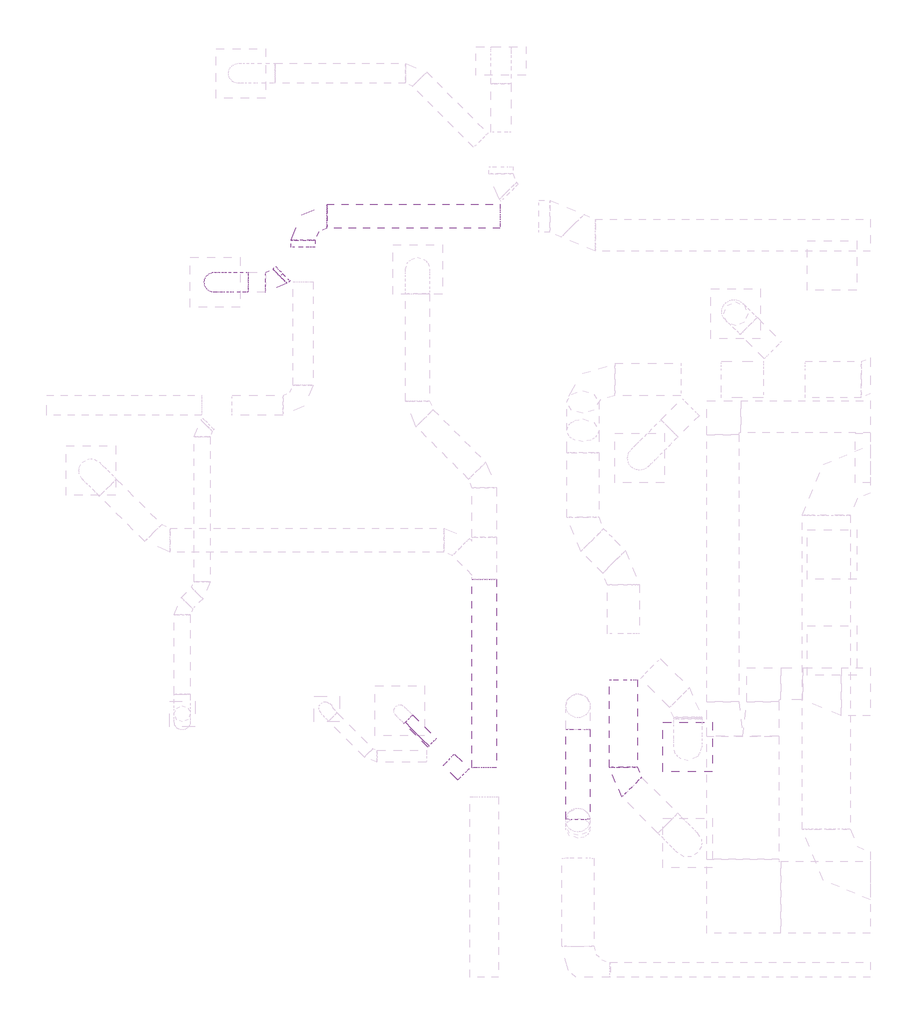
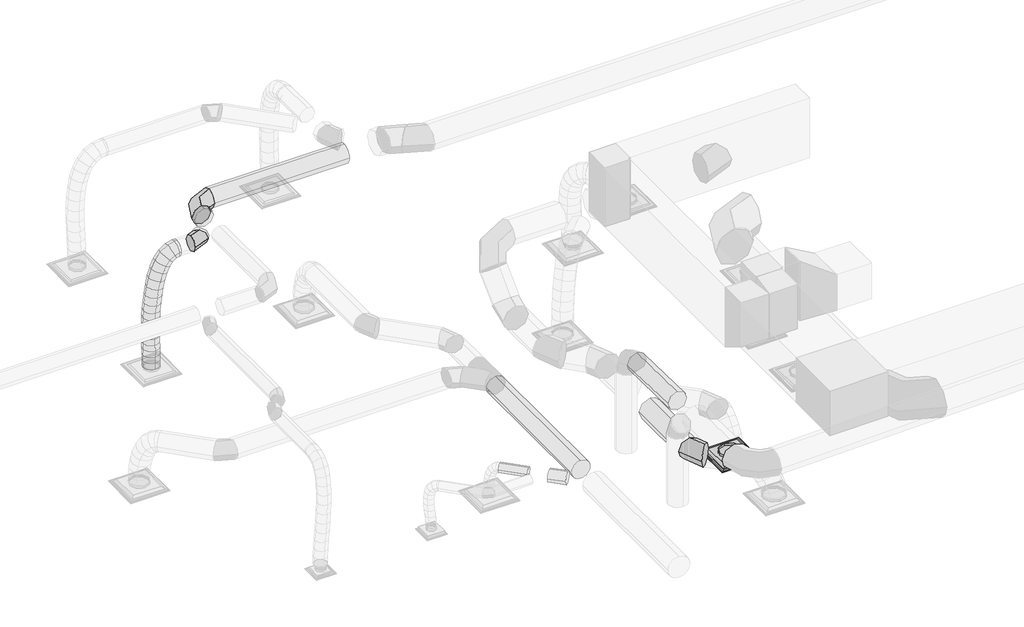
# One storey, part 14 of 33: 9 duct segments, 3 duct fittings, 1 air terminal.
"""IFC4 building model written with IfcOpenShell, lengths in millimetres."""

from ifc_helpers import new_model, si_unit, point, frame, frame_2d, origin, place, context, project, spatial, circle_curve, ellipse_curve, trimmed, segment, composite_curve, outline, extrude, transform, mapped, element, save
from ifc_brep_helpers import plane_surface, cylinder_surface, advanced_brep
from components import air_terminal_1ddfe03e, round_elbow_1_d_146a3901, round_elbow_1_d_ea3dccb8, round_elbow_1_d_281bc45b

model = new_model("IFC4")

# Units and contexts
model_context = context("Model", 3, world=origin())
ifc_project = project(units=[si_unit("LENGTHUNIT", "METRE", prefix="MILLI")], contexts=[model_context])

# Site, building, storey
site = spatial("IfcSite", under=ifc_project)
building = spatial("IfcBuilding", under=site)
storey = spatial("IfcBuildingStorey", under=building, Name="T.O. SLAB - 1ST", Elevation=-25.4)

# Air terminal
placement = place(None, origin())
air_terminal_shape = air_terminal_1ddfe03e(model_context)
element("IfcAirTerminal", 1, ObjectType="Titus-Round_Neck_Supply_Diffuser-PCS_Surface_Mount : PCS AA-14_24x24", at=placement, inside=storey, context=model_context, shape_type="MappedRepresentation", body=[
    mapped(air_terminal_shape, transform((11455.4, 24676.0034288, 2717.8), x_axis=(0.0, -1.0, 0.0), y_axis=(-1.0, 0.0, 0.0), z_axis=(0.0, 0.0, -1.0))),
])

# Duct fittings
round_elbow_1_d_shape = round_elbow_1_d_146a3901(model_context)
element("IfcDuctFitting", 2, ObjectType="Round Elbow : 1 D", at=placement, inside=storey, context=model_context, shape_type="MappedRepresentation", body=[
    mapped(round_elbow_1_d_shape, transform((10641.328611, 24270.8697879, 3276.6), x_axis=(0.0, -1.0, 0.0), y_axis=(1.0, 0.0, 0.0), z_axis=(0.0, 0.0, 1.0))),
])
round_elbow_1_d_2_shape = round_elbow_1_d_ea3dccb8(model_context)
element("IfcDuctFitting", 3, ObjectType="Round Elbow : 1 D", at=placement, inside=storey, context=model_context, shape_type="MappedRepresentation", body=[
    mapped(round_elbow_1_d_2_shape, transform((6212.5757183, 30561.4823623, 4648.2), x_axis=(1.0, 0.0, 0.0), y_axis=(0.0, 1.0, 0.0), z_axis=(0.0, 0.0, 1.0))),
])
round_elbow_1_d_3_shape = round_elbow_1_d_281bc45b(model_context)
element("IfcDuctFitting", 4, ObjectType="Round Elbow : 1 D", at=placement, inside=storey, context=model_context, shape_type="MappedRepresentation", body=[
    mapped(round_elbow_1_d_3_shape, transform((6578.2480791, 31395.3443818, 4648.2), x_axis=(-1.0, 0.0, 0.0), y_axis=(0.0, -1.0, 0.0), z_axis=(0.0, 0.0, 1.0))),
])

# Duct segments
element("IfcDuctSegment", 5, ObjectType="Flex - Round", at=placement, inside=storey, context=model_context, shape_type="AdvancedBrep", body=[
    advanced_brep(
    [(5882.3757183, 30434.4823623, 4648.2), (5882.3757183, 30561.4823623, 4521.2), (5882.3757183, 30688.4823623, 4648.2), (5882.3757183, 30561.4823623, 4775.2), (5857.4072984, 30434.4823623, 4648.2), (5874.1168867, 30561.4823623, 4521.2), (5857.4073064, 30688.4823623, 4648.2), (5840.6977182, 30561.4823623, 4775.2), (5465.447759, 30434.4824969, 2787.6500014), (5338.4516744, 30561.4825211, 2786.6558394), (5465.4478074, 30688.4824969, 2787.6499986), (5592.443892, 30561.4824728, 2788.6441606), (5782.975518, 30434.4823671, 4628.2687626), (5836.6178435, 30561.4823647, 4511.158559), (5782.9755431, 30688.4823671, 4628.2687672), (5729.3332177, 30561.4823694, 4745.3789709), (5701.6029603, 30434.4823799, 4572.9069649), (5789.6028965, 30561.4823721, 4479.1719525), (5701.6030005, 30688.4823799, 4572.9069797), (5613.6030643, 30561.4823877, 4666.6419922), (5636.2292394, 30434.4823987, 4488.7624785), (5744.730621, 30561.482385, 4421.4154943), (5636.2292876, 30688.4823987, 4488.7625036), (5527.7279061, 30561.4824123, 4556.1094879), (5584.8255501, 30434.4824211, 4382.4831744), (5702.9513467, 30561.4824033, 4335.035076), (5584.8256012, 30688.4824211, 4382.4832057), (5466.6998045, 30561.482439, 4429.9313041), (5545.3630865, 30434.4824451, 4260.7169213), (5667.9576012, 30561.4824245, 4227.0575985), (5545.3631383, 30688.4824451, 4260.7169548), (5422.7686236, 30561.4824657, 4294.3762776), (5515.8130438, 30434.4824685, 4130.1115878), (5640.534086, 30561.4824462, 4105.8510949), (5515.8130954, 30688.4824685, 4130.1116201), (5391.0920532, 30561.4824907, 4154.372113), (5494.1466174, 30434.482489, 3997.3150429), (5619.8943812, 30561.4824658, 3979.3474698), (5494.1466682, 30688.482489, 3997.3150706), (5368.3989044, 30561.4825122, 4015.2826437), (5478.3707749, 30434.4825046, 3868.7753504), (5604.6608289, 30561.4824808, 3855.2262937), (5478.3708249, 30688.4825046, 3868.775371), (5352.0807708, 30561.4825284, 3882.3244277), (5467.18667, 30434.4825147, 3747.0632106), (5593.82253, 30561.4824906, 3737.277422), (5467.1867192, 30688.4825147, 3747.0632233), (5340.5508592, 30561.4825388, 3756.8490119), (5459.9249375, 30434.4825201, 3631.2333681), (5586.7822988, 30561.4824959, 3624.9806829), (5459.9249863, 30688.4825201, 3631.2333734), (5333.0676251, 30561.4825444, 3637.4860585), (5455.9390048, 30434.4825217, 3520.2132616), (5582.9102119, 30561.4824974, 3517.1315247), (5455.9390533, 30688.4825217, 3520.2132605), (5328.9678462, 30561.482546, 3523.2949973), (5454.582299, 30434.4825202, 3412.9303301), (5581.5871278, 30561.482496, 3412.5072542), (5454.5823475, 30688.4825202, 3412.9303239), (5327.5775188, 30561.4825445, 3413.3533998), (5455.2082476, 30434.4825167, 3308.3120125), (5582.2010373, 30561.4824925, 3309.901073), (5455.2082961, 30688.4825167, 3308.3120029), (5328.2155063, 30561.4825409, 3306.7229424), (5457.1702776, 30434.4825119, 3205.2857479), (5584.1390331, 30561.4824877, 3208.1368518), (5457.1703262, 30688.4825119, 3205.2857365), (5330.2015707, 30561.482536, 3202.4346326), (5459.8218166, 30434.4825066, 3102.7789755), (5586.7793743, 30561.4824825, 3106.0629755), (5459.8218651, 30688.4825066, 3102.7789637), (5332.8643074, 30561.4825307, 3099.4949637), (5462.5162916, 30434.4825018, 2999.7191335), (5589.4831709, 30561.4824777, 3002.6467877), (5462.5163401, 30688.4825018, 2999.7191244), (5335.5494609, 30561.4825259, 2996.7914702), (5464.6071301, 30434.4824983, 2895.033662), (5591.5972275, 30561.4824741, 2896.7988104), (5464.6071785, 30688.4824983, 2895.0336568), (5337.617081, 30561.4825225, 2893.2685084)],
    [
        (0, 1, circle_curve(frame((5882.3757183, 30561.4823623, 4648.2), z_axis=(1.0, 0.0, 0.0), x_axis=(0.0, -1.0, 0.0)), 127.0)),
        (1, 2, circle_curve(frame((5882.3757183, 30561.4823623, 4648.2), z_axis=(1.0, 0.0, 0.0), x_axis=(0.0, -1.0, 0.0)), 127.0)),
        (2, 3, circle_curve(frame((5882.3757183, 30561.4823623, 4648.2), z_axis=(1.0, 0.0, 0.0), x_axis=(0.0, -1.0, 0.0)), 127.0)),
        (3, 0, circle_curve(frame((5882.3757183, 30561.4823623, 4648.2), z_axis=(1.0, 0.0, 0.0), x_axis=(0.0, -1.0, 0.0)), 127.0)),
        (0, 4),
        (4, 5, ellipse_curve(frame((5857.4073024, 30561.4823623, 4648.2), z_axis=(0.9914552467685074, -3.11921936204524e-08, 0.13044728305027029), x_axis=(0.1304472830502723, 2.3707403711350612e-07, -0.9914552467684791)), 128.0945362, 127.0)),
        (5, 1),
        (5, 6, ellipse_curve(frame((5857.4073024, 30561.4823623, 4648.2), z_axis=(0.9914552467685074, -3.11921936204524e-08, 0.13044728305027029), x_axis=(0.1304472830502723, 2.3707403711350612e-07, -0.9914552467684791)), 128.0945362, 127.0)),
        (6, 2),
        (6, 7, ellipse_curve(frame((5857.4073024, 30561.4823623, 4648.2), z_axis=(0.9914552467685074, -3.11921936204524e-08, 0.13044728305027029), x_axis=(0.1304472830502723, 2.3707403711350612e-07, -0.9914552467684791)), 128.0945362, 127.0)),
        (7, 3),
        (7, 4, ellipse_curve(frame((5857.4073024, 30561.4823623, 4648.2), z_axis=(0.9914552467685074, -3.11921936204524e-08, 0.13044728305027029), x_axis=(0.1304472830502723, 2.3707403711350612e-07, -0.9914552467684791)), 128.0945362, 127.0)),
        (8, 9, circle_curve(frame((5465.4477832, 30561.4824969, 2787.65), z_axis=(0.00782803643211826, -1.26703590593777e-08, -0.9999693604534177), x_axis=(-1.904807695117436e-07, -0.9999999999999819, 1.117961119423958e-08)), 127.0)),
        (9, 10, circle_curve(frame((5465.4477832, 30561.4824969, 2787.65), z_axis=(0.00782803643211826, -1.26703590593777e-08, -0.9999693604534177), x_axis=(-1.904807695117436e-07, -0.9999999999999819, 1.117961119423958e-08)), 127.0)),
        (10, 11, circle_curve(frame((5465.4477832, 30561.4824969, 2787.65), z_axis=(0.00782803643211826, -1.26703590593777e-08, -0.9999693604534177), x_axis=(-1.904807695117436e-07, -0.9999999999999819, 1.117961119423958e-08)), 127.0)),
        (11, 8, circle_curve(frame((5465.4477832, 30561.4824969, 2787.65), z_axis=(0.00782803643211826, -1.26703590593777e-08, -0.9999693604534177), x_axis=(-1.904807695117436e-07, -0.9999999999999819, 1.117961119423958e-08)), 127.0)),
        (4, 12),
        (12, 13, ellipse_curve(frame((5782.9755306, 30561.4823671, 4628.2687649), z_axis=(0.9091624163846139, -9.754882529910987e-08, 0.41644171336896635), x_axis=(0.4164417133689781, 2.0542137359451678e-07, -0.9091624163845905)), 128.8110945, 127.0)),
        (13, 5),
        (13, 14, ellipse_curve(frame((5782.9755306, 30561.4823671, 4628.2687649), z_axis=(0.9091624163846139, -9.754882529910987e-08, 0.41644171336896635), x_axis=(0.4164417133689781, 2.0542137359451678e-07, -0.9091624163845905)), 128.8110945, 127.0)),
        (14, 6),
        (14, 15, ellipse_curve(frame((5782.9755306, 30561.4823671, 4628.2687649), z_axis=(0.9091624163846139, -9.754882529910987e-08, 0.41644171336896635), x_axis=(0.4164417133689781, 2.0542137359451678e-07, -0.9091624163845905)), 128.8110945, 127.0)),
        (15, 7),
        (15, 12, ellipse_curve(frame((5782.9755306, 30561.4823671, 4628.2687649), z_axis=(0.9091624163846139, -9.754882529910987e-08, 0.41644171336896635), x_axis=(0.4164417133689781, 2.0542137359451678e-07, -0.9091624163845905)), 128.8110945, 127.0)),
        (12, 16),
        (16, 17, ellipse_curve(frame((5701.6029804, 30561.4823799, 4572.9069723), z_axis=(0.7290583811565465, -1.550893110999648e-07, 0.6844515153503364), x_axis=(0.6844515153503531, 1.456517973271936e-07, -0.7290583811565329)), 128.5699777, 127.0)),
        (17, 13),
        (17, 18, ellipse_curve(frame((5701.6029804, 30561.4823799, 4572.9069723), z_axis=(0.7290583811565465, -1.550893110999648e-07, 0.6844515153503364), x_axis=(0.6844515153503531, 1.456517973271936e-07, -0.7290583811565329)), 128.5699777, 127.0)),
        (18, 14),
        (18, 19, ellipse_curve(frame((5701.6029804, 30561.4823799, 4572.9069723), z_axis=(0.7290583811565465, -1.550893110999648e-07, 0.6844515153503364), x_axis=(0.6844515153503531, 1.456517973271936e-07, -0.7290583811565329)), 128.5699777, 127.0)),
        (19, 15),
        (19, 16, ellipse_curve(frame((5701.6029804, 30561.4823799, 4572.9069723), z_axis=(0.7290583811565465, -1.550893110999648e-07, 0.6844515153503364), x_axis=(0.6844515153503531, 1.456517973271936e-07, -0.7290583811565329)), 128.5699777, 127.0)),
        (16, 20),
        (20, 21, ellipse_curve(frame((5636.2292635, 30561.4823987, 4488.7624911), z_axis=(0.5273703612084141, -1.8407641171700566e-07, 0.8496355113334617), x_axis=(0.8496355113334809, 6.845152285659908e-08, -0.5273703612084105)), 127.7034163, 127.0)),
        (21, 17),
        (21, 22, ellipse_curve(frame((5636.2292635, 30561.4823987, 4488.7624911), z_axis=(0.5273703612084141, -1.8407641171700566e-07, 0.8496355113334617), x_axis=(0.8496355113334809, 6.845152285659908e-08, -0.5273703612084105)), 127.7034163, 127.0)),
        (22, 18),
        (22, 23, ellipse_curve(frame((5636.2292635, 30561.4823987, 4488.7624911), z_axis=(0.5273703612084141, -1.8407641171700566e-07, 0.8496355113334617), x_axis=(0.8496355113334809, 6.845152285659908e-08, -0.5273703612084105)), 127.7034163, 127.0)),
        (23, 19),
        (23, 20, ellipse_curve(frame((5636.2292635, 30561.4823987, 4488.7624911), z_axis=(0.5273703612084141, -1.8407641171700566e-07, 0.8496355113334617), x_axis=(0.8496355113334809, 6.845152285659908e-08, -0.5273703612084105)), 127.7034163, 127.0)),
        (20, 24),
        (24, 25, ellipse_curve(frame((5584.8255756, 30561.4824211, 4382.48319), z_axis=(0.37272983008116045, -1.8929553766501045e-07, 0.927939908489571), x_axis=(0.9279399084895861, -2.0238526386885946e-08, -0.37272983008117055)), 127.2989447, 127.0)),
        (25, 21),
        (25, 26, ellipse_curve(frame((5584.8255756, 30561.4824211, 4382.48319), z_axis=(0.37272983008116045, -1.8929553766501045e-07, 0.927939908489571), x_axis=(0.9279399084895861, -2.0238526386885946e-08, -0.37272983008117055)), 127.2989447, 127.0)),
        (26, 22),
        (26, 27, ellipse_curve(frame((5584.8255756, 30561.4824211, 4382.48319), z_axis=(0.37272983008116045, -1.8929553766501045e-07, 0.927939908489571), x_axis=(0.9279399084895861, -2.0238526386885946e-08, -0.37272983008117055)), 127.2989447, 127.0)),
        (27, 23),
        (27, 24, ellipse_curve(frame((5584.8255756, 30561.4824211, 4382.48319), z_axis=(0.37272983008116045, -1.8929553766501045e-07, 0.927939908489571), x_axis=(0.9279399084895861, -2.0238526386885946e-08, -0.37272983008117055)), 127.2989447, 127.0)),
        (24, 28),
        (28, 29, ellipse_curve(frame((5545.3631124, 30561.4824451, 4260.716938), z_axis=(0.2647605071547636, -1.8111451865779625e-07, 0.9643141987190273), x_axis=(0.964314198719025, -1.438929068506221e-07, -0.26476050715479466)), 127.1312701, 127.0)),
        (29, 25),
        (29, 30, ellipse_curve(frame((5545.3631124, 30561.4824451, 4260.716938), z_axis=(0.2647605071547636, -1.8111451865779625e-07, 0.9643141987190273), x_axis=(0.964314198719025, -1.438929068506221e-07, -0.26476050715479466)), 127.1312701, 127.0)),
        (30, 26),
        (30, 31, ellipse_curve(frame((5545.3631124, 30561.4824451, 4260.716938), z_axis=(0.2647605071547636, -1.8111451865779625e-07, 0.9643141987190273), x_axis=(0.964314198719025, -1.438929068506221e-07, -0.26476050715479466)), 127.1312701, 127.0)),
        (31, 27),
        (31, 28, ellipse_curve(frame((5545.3631124, 30561.4824451, 4260.716938), z_axis=(0.2647605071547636, -1.8111451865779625e-07, 0.9643141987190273), x_axis=(0.964314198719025, -1.438929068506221e-07, -0.26476050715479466)), 127.1312701, 127.0)),
        (28, 32),
        (32, 33, ellipse_curve(frame((5515.8130696, 30561.4824685, 4130.111604), z_axis=(0.19093943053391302, -1.6355233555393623e-07, 0.9816018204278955), x_axis=(0.9816018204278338, -3.591772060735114e-07, -0.19093943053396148)), 127.0586645, 127.0)),
        (33, 29),
        (33, 34, ellipse_curve(frame((5515.8130696, 30561.4824685, 4130.111604), z_axis=(0.19093943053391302, -1.6355233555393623e-07, 0.9816018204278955), x_axis=(0.9816018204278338, -3.591772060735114e-07, -0.19093943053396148)), 127.0586645, 127.0)),
        (34, 30),
        (34, 35, ellipse_curve(frame((5515.8130696, 30561.4824685, 4130.111604), z_axis=(0.19093943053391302, -1.6355233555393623e-07, 0.9816018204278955), x_axis=(0.9816018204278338, -3.591772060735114e-07, -0.19093943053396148)), 127.0586645, 127.0)),
        (35, 31),
        (35, 32, ellipse_curve(frame((5515.8130696, 30561.4824685, 4130.111604), z_axis=(0.19093943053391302, -1.6355233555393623e-07, 0.9816018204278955), x_axis=(0.9816018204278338, -3.591772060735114e-07, -0.19093943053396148)), 127.0586645, 127.0)),
        (32, 36),
        (36, 37, ellipse_curve(frame((5494.1466428, 30561.482489, 3997.3150568), z_axis=(0.14144931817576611, -1.365447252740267e-07, 0.9899454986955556), x_axis=(0.9899454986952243, -8.102378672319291e-07, -0.14144931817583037)), 127.0249105, 127.0)),
        (37, 33),
        (37, 38, ellipse_curve(frame((5494.1466428, 30561.482489, 3997.3150568), z_axis=(0.14144931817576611, -1.365447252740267e-07, 0.9899454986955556), x_axis=(0.9899454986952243, -8.102378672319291e-07, -0.14144931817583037)), 127.0249105, 127.0)),
        (38, 34),
        (38, 39, ellipse_curve(frame((5494.1466428, 30561.482489, 3997.3150568), z_axis=(0.14144931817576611, -1.365447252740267e-07, 0.9899454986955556), x_axis=(0.9899454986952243, -8.102378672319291e-07, -0.14144931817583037)), 127.0249105, 127.0)),
        (39, 35),
        (39, 36, ellipse_curve(frame((5494.1466428, 30561.482489, 3997.3150568), z_axis=(0.14144931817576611, -1.365447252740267e-07, 0.9899454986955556), x_axis=(0.9899454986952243, -8.102378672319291e-07, -0.14144931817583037)), 127.0249105, 127.0)),
        (36, 40),
        (40, 41, ellipse_curve(frame((5478.3707999, 30561.4825046, 3868.7753607), z_axis=(0.10667317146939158, -1.015598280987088e-07, 0.9942941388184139), x_axis=(0.9942941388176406, -1.241478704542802e-06, -0.10667317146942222)), 127.0147576, 127.0)),
        (41, 37),
        (41, 42, ellipse_curve(frame((5478.3707999, 30561.4825046, 3868.7753607), z_axis=(0.10667317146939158, -1.015598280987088e-07, 0.9942941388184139), x_axis=(0.9942941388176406, -1.241478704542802e-06, -0.10667317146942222)), 127.0147576, 127.0)),
        (42, 38),
        (42, 43, ellipse_curve(frame((5478.3707999, 30561.4825046, 3868.7753607), z_axis=(0.10667317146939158, -1.015598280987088e-07, 0.9942941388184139), x_axis=(0.9942941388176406, -1.241478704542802e-06, -0.10667317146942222)), 127.0147576, 127.0)),
        (43, 39),
        (43, 40, ellipse_curve(frame((5478.3707999, 30561.4825046, 3868.7753607), z_axis=(0.10667317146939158, -1.015598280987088e-07, 0.9942941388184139), x_axis=(0.9942941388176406, -1.241478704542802e-06, -0.10667317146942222)), 127.0147576, 127.0)),
        (40, 44),
        (44, 45, ellipse_curve(frame((5467.1866946, 30561.4825147, 3747.063217), z_axis=(0.07704539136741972, -6.458959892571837e-08, 0.9970275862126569), x_axis=(0.9970275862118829, -1.243323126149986e-06, -0.07704539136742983)), 127.0133717, 127.0)),
        (45, 41),
        (45, 46, ellipse_curve(frame((5467.1866946, 30561.4825147, 3747.063217), z_axis=(0.07704539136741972, -6.458959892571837e-08, 0.9970275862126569), x_axis=(0.9970275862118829, -1.243323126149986e-06, -0.07704539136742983)), 127.0133717, 127.0)),
        (46, 42),
        (46, 47, ellipse_curve(frame((5467.1866946, 30561.4825147, 3747.063217), z_axis=(0.07704539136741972, -6.458959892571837e-08, 0.9970275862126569), x_axis=(0.9970275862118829, -1.243323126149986e-06, -0.07704539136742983)), 127.0133717, 127.0)),
        (47, 43),
        (47, 44, ellipse_curve(frame((5467.1866946, 30561.4825147, 3747.063217), z_axis=(0.07704539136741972, -6.458959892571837e-08, 0.9970275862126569), x_axis=(0.9970275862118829, -1.243323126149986e-06, -0.07704539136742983)), 127.0133717, 127.0)),
        (44, 48),
        (48, 49, ellipse_curve(frame((5459.9249619, 30561.4825201, 3631.2333707), z_axis=(0.04922936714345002, -3.0296648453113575e-08, 0.9987874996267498), x_axis=(0.9987874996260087, -1.216035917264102e-06, -0.04922936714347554)), 127.0113381, 127.0)),
        (49, 45),
        (49, 50, ellipse_curve(frame((5459.9249619, 30561.4825201, 3631.2333707), z_axis=(0.04922936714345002, -3.0296648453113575e-08, 0.9987874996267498), x_axis=(0.9987874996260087, -1.216035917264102e-06, -0.04922936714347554)), 127.0113381, 127.0)),
        (50, 46),
        (50, 51, ellipse_curve(frame((5459.9249619, 30561.4825201, 3631.2333707), z_axis=(0.04922936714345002, -3.0296648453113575e-08, 0.9987874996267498), x_axis=(0.9987874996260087, -1.216035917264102e-06, -0.04922936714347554)), 127.0113381, 127.0)),
        (51, 47),
        (51, 48, ellipse_curve(frame((5459.9249619, 30561.4825201, 3631.2333707), z_axis=(0.04922936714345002, -3.0296648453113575e-08, 0.9987874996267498), x_axis=(0.9987874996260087, -1.216035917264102e-06, -0.04922936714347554)), 127.0113381, 127.0)),
        (48, 52),
        (52, 53, ellipse_curve(frame((5455.9390291, 30561.4825217, 3520.213261), z_axis=(0.02426400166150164, -3.8306851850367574e-10, 0.9997055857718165), x_axis=(0.9997055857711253, -1.1757295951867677e-06, -0.024264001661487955)), 127.008576, 127.0)),
        (53, 49),
        (53, 54, ellipse_curve(frame((5455.9390291, 30561.4825217, 3520.213261), z_axis=(0.02426400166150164, -3.8306851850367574e-10, 0.9997055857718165), x_axis=(0.9997055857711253, -1.1757295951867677e-06, -0.024264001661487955)), 127.008576, 127.0)),
        (54, 50),
        (54, 55, ellipse_curve(frame((5455.9390291, 30561.4825217, 3520.213261), z_axis=(0.02426400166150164, -3.8306851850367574e-10, 0.9997055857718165), x_axis=(0.9997055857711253, -1.1757295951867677e-06, -0.024264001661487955)), 127.008576, 127.0)),
        (55, 51),
        (55, 52, ellipse_curve(frame((5455.9390291, 30561.4825217, 3520.213261), z_axis=(0.02426400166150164, -3.8306851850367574e-10, 0.9997055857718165), x_axis=(0.9997055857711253, -1.1757295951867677e-06, -0.024264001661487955)), 127.008576, 127.0)),
        (52, 56),
        (56, 57, ellipse_curve(frame((5454.5823233, 30561.4825202, 3412.930327), z_axis=(0.0033311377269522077, 2.3626302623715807e-08, 0.9999944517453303), x_axis=(0.9999944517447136, -1.1107320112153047e-06, -0.003331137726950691)), 127.0055091, 127.0)),
        (57, 53),
        (57, 58, ellipse_curve(frame((5454.5823233, 30561.4825202, 3412.930327), z_axis=(0.0033311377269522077, 2.3626302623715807e-08, 0.9999944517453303), x_axis=(0.9999944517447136, -1.1107320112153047e-06, -0.003331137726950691)), 127.0055091, 127.0)),
        (58, 54),
        (58, 59, ellipse_curve(frame((5454.5823233, 30561.4825202, 3412.930327), z_axis=(0.0033311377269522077, 2.3626302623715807e-08, 0.9999944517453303), x_axis=(0.9999944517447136, -1.1107320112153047e-06, -0.003331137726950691)), 127.0055091, 127.0)),
        (59, 55),
        (59, 56, ellipse_curve(frame((5454.5823233, 30561.4825202, 3412.930327), z_axis=(0.0033311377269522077, 2.3626302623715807e-08, 0.9999944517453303), x_axis=(0.9999944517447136, -1.1107320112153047e-06, -0.003331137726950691)), 127.0055091, 127.0)),
        (56, 60),
        (60, 61, ellipse_curve(frame((5455.2082718, 30561.4825167, 3308.3120077), z_axis=(-0.012512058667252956, 4.0409469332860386e-08, 0.9999217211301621), x_axis=(0.9999217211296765, -9.86003442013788e-07, 0.012512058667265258)), 127.0027072, 127.0)),
        (61, 57),
        (61, 62, ellipse_curve(frame((5455.2082718, 30561.4825167, 3308.3120077), z_axis=(-0.012512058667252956, 4.0409469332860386e-08, 0.9999217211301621), x_axis=(0.9999217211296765, -9.86003442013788e-07, 0.012512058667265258)), 127.0027072, 127.0)),
        (62, 58),
        (62, 63, ellipse_curve(frame((5455.2082718, 30561.4825167, 3308.3120077), z_axis=(-0.012512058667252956, 4.0409469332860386e-08, 0.9999217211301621), x_axis=(0.9999217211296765, -9.86003442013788e-07, 0.012512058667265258)), 127.0027072, 127.0)),
        (63, 59),
        (63, 60, ellipse_curve(frame((5455.2082718, 30561.4825167, 3308.3120077), z_axis=(-0.012512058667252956, 4.0409469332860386e-08, 0.9999217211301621), x_axis=(0.9999217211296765, -9.86003442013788e-07, 0.012512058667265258)), 127.0027072, 127.0)),
        (60, 64),
        (64, 65, ellipse_curve(frame((5457.1703019, 30561.4825119, 3205.2857422), z_axis=(-0.02244955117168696, 4.899657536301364e-08, 0.9997479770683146), x_axis=(0.999747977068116, -6.304923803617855e-07, 0.022449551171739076)), 127.0007383, 127.0)),
        (65, 61),
        (65, 66, ellipse_curve(frame((5457.1703019, 30561.4825119, 3205.2857422), z_axis=(-0.02244955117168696, 4.899657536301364e-08, 0.9997479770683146), x_axis=(0.999747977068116, -6.304923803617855e-07, 0.022449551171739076)), 127.0007383, 127.0)),
        (66, 62),
        (66, 67, ellipse_curve(frame((5457.1703019, 30561.4825119, 3205.2857422), z_axis=(-0.02244955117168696, 4.899657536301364e-08, 0.9997479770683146), x_axis=(0.999747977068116, -6.304923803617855e-07, 0.022449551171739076)), 127.0007383, 127.0)),
        (67, 63),
        (67, 64, ellipse_curve(frame((5457.1703019, 30561.4825119, 3205.2857422), z_axis=(-0.02244955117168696, 4.899657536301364e-08, 0.9997479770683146), x_axis=(0.999747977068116, -6.304923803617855e-07, 0.022449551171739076)), 127.0007383, 127.0)),
        (64, 68),
        (68, 69, circle_curve(frame((5459.8218409, 30561.4825066, 3102.7789696), z_axis=(-0.02585831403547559, 5.114611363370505e-08, 0.9996656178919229), x_axis=(-1.9113232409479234e-07, -0.9999999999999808, 4.621920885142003e-08)), 127.0)),
        (69, 65),
        (69, 70, circle_curve(frame((5459.8218409, 30561.4825066, 3102.7789696), z_axis=(-0.02585831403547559, 5.114611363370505e-08, 0.9996656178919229), x_axis=(-1.9113232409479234e-07, -0.9999999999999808, 4.621920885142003e-08)), 127.0)),
        (70, 66),
        (70, 71, circle_curve(frame((5459.8218409, 30561.4825066, 3102.7789696), z_axis=(-0.02585831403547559, 5.114611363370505e-08, 0.9996656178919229), x_axis=(-1.9113232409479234e-07, -0.9999999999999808, 4.621920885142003e-08)), 127.0)),
        (71, 67),
        (71, 68, circle_curve(frame((5459.8218409, 30561.4825066, 3102.7789696), z_axis=(-0.02585831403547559, 5.114611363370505e-08, 0.9996656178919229), x_axis=(-1.9113232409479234e-07, -0.9999999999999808, 4.621920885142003e-08)), 127.0)),
        (68, 72),
        (72, 73, ellipse_curve(frame((5462.5163159, 30561.4825018, 2999.719129), z_axis=(-0.023052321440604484, 4.007534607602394e-08, 0.9997342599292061), x_axis=(-0.9997342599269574, 2.120628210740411e-06, -0.02305232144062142)), 127.0006041, 127.0)),
        (73, 69),
        (73, 74, ellipse_curve(frame((5462.5163159, 30561.4825018, 2999.719129), z_axis=(-0.023052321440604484, 4.007534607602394e-08, 0.9997342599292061), x_axis=(-0.9997342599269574, 2.120628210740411e-06, -0.02305232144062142)), 127.0006041, 127.0)),
        (74, 70),
        (74, 75, ellipse_curve(frame((5462.5163159, 30561.4825018, 2999.719129), z_axis=(-0.023052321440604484, 4.007534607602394e-08, 0.9997342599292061), x_axis=(-0.9997342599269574, 2.120628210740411e-06, -0.02305232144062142)), 127.0006041, 127.0)),
        (75, 71),
        (75, 72, ellipse_curve(frame((5462.5163159, 30561.4825018, 2999.719129), z_axis=(-0.023052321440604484, 4.007534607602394e-08, 0.9997342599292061), x_axis=(-0.9997342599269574, 2.120628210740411e-06, -0.02305232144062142)), 127.0006041, 127.0)),
        (72, 76),
        (76, 77, ellipse_curve(frame((5464.6071543, 30561.4824983, 2895.0336594), z_axis=(-0.013898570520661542, 2.3102708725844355e-08, 0.9999034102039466), x_axis=(-0.9999034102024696, 1.7183589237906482e-06, -0.013898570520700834)), 127.0023404, 127.0)),
        (77, 73),
        (77, 78, ellipse_curve(frame((5464.6071543, 30561.4824983, 2895.0336594), z_axis=(-0.013898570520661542, 2.3102708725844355e-08, 0.9999034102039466), x_axis=(-0.9999034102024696, 1.7183589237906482e-06, -0.013898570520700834)), 127.0023404, 127.0)),
        (78, 74),
        (78, 79, ellipse_curve(frame((5464.6071543, 30561.4824983, 2895.0336594), z_axis=(-0.013898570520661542, 2.3102708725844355e-08, 0.9999034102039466), x_axis=(-0.9999034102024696, 1.7183589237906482e-06, -0.013898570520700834)), 127.0023404, 127.0)),
        (79, 75),
        (79, 76, ellipse_curve(frame((5464.6071543, 30561.4824983, 2895.0336594), z_axis=(-0.013898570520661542, 2.3102708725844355e-08, 0.9999034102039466), x_axis=(-0.9999034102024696, 1.7183589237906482e-06, -0.013898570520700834)), 127.0023404, 127.0)),
        (76, 8),
        (11, 77),
        (10, 78),
        (9, 79),
    ],
    [
        plane_surface(frame((5882.3757183, 30561.4823623, 4521.2), z_axis=(1.0, 0.0, 0.0), x_axis=(0.0, -1.0, 0.0))),
        cylinder_surface(frame((5882.3757183, 30561.4823623, 4648.2), z_axis=(1.0, 0.0, 0.0), x_axis=(0.0, -1.0, 0.0)), 127.0),
        plane_surface(frame((5465.4477832, 30688.4824969, 2787.6499984), z_axis=(0.007828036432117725, -1.2670359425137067e-08, -0.9999693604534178), x_axis=(0.9999693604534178, 9.91917659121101e-11, 0.007828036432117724))),
        cylinder_surface(frame((5857.4073024, 30561.4823623, 4648.2), z_axis=(0.9659670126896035, -6.185132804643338e-08, 0.25866528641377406), x_axis=(-6.185132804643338e-08, -0.9999999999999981, -8.137873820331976e-09)), 127.0),
        cylinder_surface(frame((5782.9755306, 30561.4823671, 4628.2687649), z_axis=(0.8267920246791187, -1.3050323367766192e-07, 0.5625077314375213), x_axis=(-1.3081488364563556e-07, -0.9999999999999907, -3.972662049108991e-08)), 127.0),
        cylinder_surface(frame((5701.6029804, 30561.4823799, 4572.9069723), z_axis=(0.6135195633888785, -1.758877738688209e-07, 0.7896795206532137), x_axis=(-1.7824257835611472e-07, -0.9999999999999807, -8.425248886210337e-08)), 127.0),
        cylinder_surface(frame((5636.2292635, 30561.4823987, 4488.7624911), z_axis=(0.4354114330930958, -1.9023718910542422e-07, 0.9002315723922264), x_axis=(-1.9774753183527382e-07, -0.9999999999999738, -1.1567651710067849e-07)), 127.0),
        cylinder_surface(frame((5584.8255756, 30561.4824211, 4382.48319), z_axis=(0.30829761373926, -1.8746481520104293e-07, 0.9512899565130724), x_axis=(-2.0389628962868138e-07, -0.9999999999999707, -1.3098432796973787e-07)), 127.0),
        cylinder_surface(frame((5545.3631124, 30561.4824451, 4260.716938), z_axis=(0.22067664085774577, -1.7439020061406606e-07, 0.9753470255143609), x_axis=(-2.0433091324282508e-07, -0.9999999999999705, -1.3256731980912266e-07)), 127.0),
        cylinder_surface(frame((5515.8130696, 30561.4824685, 4130.111604), z_axis=(0.16102590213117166, -1.525634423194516e-07, 0.9869501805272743), x_axis=(-2.0219589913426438e-07, -0.9999999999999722, -1.215914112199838e-07)), 127.0),
        cylinder_surface(frame((5494.1466428, 30561.482489, 3997.3150568), z_axis=(0.12181725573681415, -1.2047245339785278e-07, 0.9925525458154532), x_axis=(-1.9868099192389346e-07, -0.9999999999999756, -9.69920238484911e-08)), 127.0),
        cylinder_surface(frame((5478.3707999, 30561.4825046, 3868.7753607), z_axis=(0.09150429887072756, -8.262360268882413e-08, 0.9958046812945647), x_axis=(-1.952519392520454e-07, -0.9999999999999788, -6.503003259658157e-08)), 127.0),
        cylinder_surface(frame((5467.1866946, 30561.4825147, 3747.063217), z_axis=(0.06257026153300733, -4.654199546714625e-08, 0.9980405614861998), x_axis=(-1.928958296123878e-07, -0.9999999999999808, -3.4540132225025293e-08)), 127.0),
        cylinder_surface(frame((5459.9249619, 30561.4825201, 3631.2333707), z_axis=(0.035879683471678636, -1.4045892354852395e-08, 0.9993561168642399), x_axis=(-1.9154716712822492e-07, -0.9999999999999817, -7.177862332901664e-09)), 127.0),
        cylinder_surface(frame((5455.9390291, 30561.4825217, 3520.213261), z_axis=(0.012645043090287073, 1.3279807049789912e-08, 0.9999200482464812), x_axis=(-1.9099198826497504e-07, -0.9999999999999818, 1.5696163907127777e-08)), 127.0),
        cylinder_surface(frame((5454.5823233, 30561.4825202, 3412.930327), z_axis=(-0.005983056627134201, 3.397074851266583e-08, 0.999982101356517), x_axis=(-1.9093491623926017e-07, -0.9999999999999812, 3.282896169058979e-08)), 127.0),
        cylinder_surface(frame((5455.2082718, 30561.4825167, 3308.3120077), z_axis=(-0.019040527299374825, 4.68464674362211e-08, 0.9998187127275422), x_axis=(-1.9106489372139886e-07, -0.9999999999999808, 4.3216325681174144e-08)), 127.0),
        cylinder_surface(frame((5457.1703019, 30561.4825119, 3205.2857422), z_axis=(-0.0258583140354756, 5.1146113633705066e-08, 0.9996656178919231), x_axis=(-1.9113232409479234e-07, -0.9999999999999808, 4.621920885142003e-08)), 127.0),
        cylinder_surface(frame((5459.8218409, 30561.4825066, 3102.7789696), z_axis=(-0.026135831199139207, 4.6616103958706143e-08, 0.9996584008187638), x_axis=(-1.9101318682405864e-07, -0.999999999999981, 4.1638039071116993e-08)), 127.0),
        cylinder_surface(frame((5462.5163159, 30561.4825018, 2999.719129), z_axis=(-0.01996859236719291, 3.353420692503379e-08, 0.9998006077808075), x_axis=(-1.9073863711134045e-07, -0.9999999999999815, 2.9731353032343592e-08)), 127.0),
        cylinder_surface(frame((5464.6071543, 30561.4824983, 2895.0336594), z_axis=(-0.007828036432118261, 1.2670359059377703e-08, 0.9999693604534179), x_axis=(-1.904807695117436e-07, -0.9999999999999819, 1.117961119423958e-08)), 127.0),
    ],
    [
        (0, [[1, 2, 3, 4]]),
        (1, [[-1, 5, 6, 7]]),
        (1, [[-2, -7, 8, 9]]),
        (1, [[-3, -9, 10, 11]]),
        (1, [[-4, -11, 12, -5]]),
        (2, [[13, 14, 15, 16]]),
        (3, [[-6, 17, 18, 19]]),
        (3, [[-8, -19, 20, 21]]),
        (3, [[-10, -21, 22, 23]]),
        (3, [[-12, -23, 24, -17]]),
        (4, [[-18, 25, 26, 27]]),
        (4, [[-20, -27, 28, 29]]),
        (4, [[-22, -29, 30, 31]]),
        (4, [[-24, -31, 32, -25]]),
        (5, [[-26, 33, 34, 35]]),
        (5, [[-28, -35, 36, 37]]),
        (5, [[-30, -37, 38, 39]]),
        (5, [[-32, -39, 40, -33]]),
        (6, [[-34, 41, 42, 43]]),
        (6, [[-36, -43, 44, 45]]),
        (6, [[-38, -45, 46, 47]]),
        (6, [[-40, -47, 48, -41]]),
        (7, [[-42, 49, 50, 51]]),
        (7, [[-44, -51, 52, 53]]),
        (7, [[-46, -53, 54, 55]]),
        (7, [[-48, -55, 56, -49]]),
        (8, [[-50, 57, 58, 59]]),
        (8, [[-52, -59, 60, 61]]),
        (8, [[-54, -61, 62, 63]]),
        (8, [[-56, -63, 64, -57]]),
        (9, [[-58, 65, 66, 67]]),
        (9, [[-60, -67, 68, 69]]),
        (9, [[-62, -69, 70, 71]]),
        (9, [[-64, -71, 72, -65]]),
        (10, [[-66, 73, 74, 75]]),
        (10, [[-68, -75, 76, 77]]),
        (10, [[-70, -77, 78, 79]]),
        (10, [[-72, -79, 80, -73]]),
        (11, [[-74, 81, 82, 83]]),
        (11, [[-76, -83, 84, 85]]),
        (11, [[-78, -85, 86, 87]]),
        (11, [[-80, -87, 88, -81]]),
        (12, [[-82, 89, 90, 91]]),
        (12, [[-84, -91, 92, 93]]),
        (12, [[-86, -93, 94, 95]]),
        (12, [[-88, -95, 96, -89]]),
        (13, [[-90, 97, 98, 99]]),
        (13, [[-92, -99, 100, 101]]),
        (13, [[-94, -101, 102, 103]]),
        (13, [[-96, -103, 104, -97]]),
        (14, [[-98, 105, 106, 107]]),
        (14, [[-100, -107, 108, 109]]),
        (14, [[-102, -109, 110, 111]]),
        (14, [[-104, -111, 112, -105]]),
        (15, [[-106, 113, 114, 115]]),
        (15, [[-108, -115, 116, 117]]),
        (15, [[-110, -117, 118, 119]]),
        (15, [[-112, -119, 120, -113]]),
        (16, [[-114, 121, 122, 123]]),
        (16, [[-116, -123, 124, 125]]),
        (16, [[-118, -125, 126, 127]]),
        (16, [[-120, -127, 128, -121]]),
        (17, [[-122, 129, 130, 131]]),
        (17, [[-124, -131, 132, 133]]),
        (17, [[-126, -133, 134, 135]]),
        (17, [[-128, -135, 136, -129]]),
        (18, [[-130, 137, 138, 139]]),
        (18, [[-132, -139, 140, 141]]),
        (18, [[-134, -141, 142, 143]]),
        (18, [[-136, -143, 144, -137]]),
        (19, [[-138, 145, 146, 147]]),
        (19, [[-140, -147, 148, 149]]),
        (19, [[-142, -149, 150, 151]]),
        (19, [[-144, -151, 152, -145]]),
        (20, [[-146, 153, -16, 154]]),
        (20, [[-148, -154, -15, 155]]),
        (20, [[-150, -155, -14, 156]]),
        (20, [[-152, -156, -13, -153]]),
    ],
),
])
element("IfcDuctSegment", 6, ObjectType="Taps", at=placement, inside=storey, context=model_context, shape_type="SweptSolid", body=[
    extrude(outline(composite_curve([segment(trimmed(circle_curve(frame_2d((3276.6, 10641.328611)), 177.8), [point((3276.6, 10463.528611))], [point((3098.8, 10641.328611))], False, "CARTESIAN"), True, "CONTINUOUS"), segment(trimmed(circle_curve(frame_2d((3276.6, 10641.328611)), 177.8), [point((3098.8, 10641.328611))], [point((3276.6, 10819.128611))], False, "CARTESIAN"), True, "CONTINUOUS"), segment(trimmed(circle_curve(frame_2d((3276.6, 10641.328611)), 177.8), [point((3276.6, 10819.128611))], [point((3454.4, 10641.328611))], False, "CARTESIAN"), True, "CONTINUOUS"), segment(trimmed(circle_curve(frame_2d((3276.6, 10641.328611)), 177.8), [point((3454.4, 10641.328611))], [point((3276.6, 10463.528611))], False, "CARTESIAN"), True, "CONTINUOUS")], self_intersect=False)), frame((0.0, 24418.1641307, 0.0), z_axis=(0.0, 1.0, 0.0), x_axis=(0.0, 0.0, 1.0)), (0.0, 0.0, 1.0), 1109.7950032),
])
element("IfcDuctSegment", 7, ObjectType="Taps", at=placement, inside=storey, context=model_context, shape_type="SweptSolid", body=[
    extrude(outline(composite_curve([segment(trimmed(circle_curve(frame_2d((31395.3443818, 4648.2)), 152.4), [point((31547.7443818, 4648.2))], [point((31395.3443818, 4495.8))], False, "CARTESIAN"), True, "CONTINUOUS"), segment(trimmed(circle_curve(frame_2d((31395.3443818, 4648.2)), 152.4), [point((31395.3443818, 4495.8))], [point((31242.9443818, 4648.2))], False, "CARTESIAN"), True, "CONTINUOUS"), segment(trimmed(circle_curve(frame_2d((31395.3443818, 4648.2)), 152.4), [point((31242.9443818, 4648.2))], [point((31395.3443818, 4800.6))], False, "CARTESIAN"), True, "CONTINUOUS"), segment(trimmed(circle_curve(frame_2d((31395.3443818, 4648.2)), 152.4), [point((31395.3443818, 4800.6))], [point((31547.7443818, 4648.2))], False, "CARTESIAN"), True, "CONTINUOUS")], self_intersect=False)), frame((6883.0480791, 0.0, 0.0), z_axis=(1.0, 0.0, 0.0), x_axis=(0.0, 1.0, 0.0)), (0.0, 0.0, 1.0), 2192.9811823),
])
element("IfcDuctSegment", 8, ObjectType="Taps", at=placement, inside=storey, context=model_context, shape_type="SweptSolid", body=[
    extrude(outline(composite_curve([segment(trimmed(circle_curve(frame_2d((4648.2, 6578.2480791)), 152.4), [point((4648.2, 6425.8480791))], [point((4495.8, 6578.2480791))], False, "CARTESIAN"), True, "CONTINUOUS"), segment(trimmed(circle_curve(frame_2d((4648.2, 6578.2480791)), 152.4), [point((4495.8, 6578.2480791))], [point((4648.2, 6730.6480791))], False, "CARTESIAN"), True, "CONTINUOUS"), segment(trimmed(circle_curve(frame_2d((4648.2, 6578.2480791)), 152.4), [point((4648.2, 6730.6480791))], [point((4800.6, 6578.2480791))], False, "CARTESIAN"), True, "CONTINUOUS"), segment(trimmed(circle_curve(frame_2d((4648.2, 6578.2480791)), 152.4), [point((4800.6, 6578.2480791))], [point((4648.2, 6425.8480791))], False, "CARTESIAN"), True, "CONTINUOUS")], self_intersect=False)), frame((0.0, 31008.0840264, 0.0), z_axis=(0.0, 1.0, 0.0), x_axis=(0.0, 0.0, 1.0)), (0.0, 0.0, 1.0), 82.4603554),
])
element("IfcDuctSegment", 9, ObjectType="Taps", at=placement, inside=storey, context=model_context, shape_type="SweptSolid", body=[
    extrude(outline(composite_curve([segment(trimmed(circle_curve(frame_2d((0.0, -127.0)), 127.0), [point((-127.0, -127.0))], [point((0.0, 0.0))], False, "CARTESIAN"), True, "CONTINUOUS"), segment(trimmed(circle_curve(frame_2d((0.0, -127.0)), 127.0), [point((0.0, 0.0))], [point((127.0, -127.0))], False, "CARTESIAN"), True, "CONTINUOUS"), segment(trimmed(circle_curve(frame_2d((0.0, -127.0)), 127.0), [point((127.0, -127.0))], [point((0.0, -254.0))], False, "CARTESIAN"), True, "CONTINUOUS"), segment(trimmed(circle_curve(frame_2d((0.0, -127.0)), 127.0), [point((0.0, -254.0))], [point((-127.0, -127.0))], False, "CARTESIAN"), True, "CONTINUOUS")], self_intersect=False)), frame((6286.9705959, 30635.8772399, 4521.2), z_axis=(0.7071067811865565, 0.7071067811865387, 0.0), x_axis=(0.7071067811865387, -0.7071067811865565, 0.0)), (0.0, 0.0, 1.0), 50.3880284),
])
element("IfcDuctSegment", 10, ObjectType="Taps", at=placement, inside=storey, context=model_context, shape_type="SweptSolid", body=[
    extrude(outline(composite_curve([segment(trimmed(circle_curve(frame_2d((3530.6, 8876.475213)), 152.4), [point((3530.6, 9028.875213))], [point((3683.0, 8876.475213))], False, "CARTESIAN"), True, "CONTINUOUS"), segment(trimmed(circle_curve(frame_2d((3530.6, 8876.475213)), 152.4), [point((3683.0, 8876.475213))], [point((3530.6, 8724.075213))], False, "CARTESIAN"), True, "CONTINUOUS"), segment(trimmed(circle_curve(frame_2d((3530.6, 8876.475213)), 152.4), [point((3530.6, 8724.075213))], [point((3378.2, 8876.475213))], False, "CARTESIAN"), True, "CONTINUOUS"), segment(trimmed(circle_curve(frame_2d((3530.6, 8876.475213)), 152.4), [point((3378.2, 8876.475213))], [point((3530.6, 9028.875213))], False, "CARTESIAN"), True, "CONTINUOUS")], self_intersect=False)), frame((0.0, 24413.1064178, 0.0), z_axis=(0.0, 1.0, 0.0), x_axis=(0.0, 0.0, 1.0)), (0.0, 0.0, 1.0), 2383.285036),
])
element("IfcDuctSegment", 11, ObjectType="Taps", at=placement, inside=storey, context=model_context, shape_type="SweptSolid", body=[
    extrude(outline(composite_curve([segment(trimmed(circle_curve(frame_2d((0.0, 101.6)), 101.6), [point((101.6, 101.6))], [point((0.0, 0.0))], False, "CARTESIAN"), True, "CONTINUOUS"), segment(trimmed(circle_curve(frame_2d((0.0, 101.6)), 101.6), [point((0.0, 0.0))], [point((-101.6, 101.6))], False, "CARTESIAN"), True, "CONTINUOUS"), segment(trimmed(circle_curve(frame_2d((0.0, 101.6)), 101.6), [point((-101.6, 101.6))], [point((0.0, 203.2))], False, "CARTESIAN"), True, "CONTINUOUS"), segment(trimmed(circle_curve(frame_2d((0.0, 101.6)), 101.6), [point((0.0, 203.2))], [point((101.6, 101.6))], False, "CARTESIAN"), True, "CONTINUOUS")], self_intersect=False)), frame((8612.8298034, 24326.3853933, 3632.2), z_axis=(-0.7071067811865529, 0.7071067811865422, 0.0), x_axis=(0.7071067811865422, 0.7071067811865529, 0.0)), (0.0, 0.0, 1.0), 263.001813),
])
element("IfcDuctSegment", 12, ObjectType="Taps", at=placement, inside=storey, context=model_context, shape_type="SweptSolid", body=[
    extrude(outline(composite_curve([segment(trimmed(circle_curve(frame_2d((0.0, 76.2)), 76.2), [point((76.2, 76.2))], [point((0.0, 0.0))], False, "CARTESIAN"), True, "CONTINUOUS"), segment(trimmed(circle_curve(frame_2d((0.0, 76.2)), 76.2), [point((0.0, 0.0))], [point((-76.2, 76.2))], False, "CARTESIAN"), True, "CONTINUOUS"), segment(trimmed(circle_curve(frame_2d((0.0, 76.2)), 76.2), [point((-76.2, 76.2))], [point((0.0, 152.4))], False, "CARTESIAN"), True, "CONTINUOUS"), segment(trimmed(circle_curve(frame_2d((0.0, 76.2)), 76.2), [point((0.0, 152.4))], [point((76.2, 76.2))], False, "CARTESIAN"), True, "CONTINUOUS")], self_intersect=False)), frame((8214.5017383, 24724.7134584, 3606.8), z_axis=(-0.7071067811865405, 0.7071067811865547, 0.0), x_axis=(0.7071067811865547, 0.7071067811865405, 0.0)), (0.0, 0.0, 1.0), 424.9331056),
])
element("IfcDuctSegment", 13, ObjectType="Taps", at=placement, inside=storey, context=model_context, shape_type="SweptSolid", body=[
    extrude(outline(composite_curve([segment(trimmed(circle_curve(frame_2d((0.0, 152.4)), 152.4), [point((-152.4, 152.4))], [point((0.0, 304.8))], False, "CARTESIAN"), True, "CONTINUOUS"), segment(trimmed(circle_curve(frame_2d((0.0, 152.4)), 152.4), [point((0.0, 304.8))], [point((152.4, 152.4))], False, "CARTESIAN"), True, "CONTINUOUS"), segment(trimmed(circle_curve(frame_2d((0.0, 152.4)), 152.4), [point((152.4, 152.4))], [point((0.0, 0.0))], False, "CARTESIAN"), True, "CONTINUOUS"), segment(trimmed(circle_curve(frame_2d((0.0, 152.4)), 152.4), [point((0.0, 0.0))], [point((-152.4, 152.4))], False, "CARTESIAN"), True, "CONTINUOUS")], self_intersect=False)), frame((10064.75, 24894.2927147, 4511.4257532), z_axis=(0.0, -0.999783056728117, 0.020828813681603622), x_axis=(1.0, 0.0, 0.0)), (0.0, 0.0, 1.0), 1140.6640588),
])

save(model, "model.ifc")
